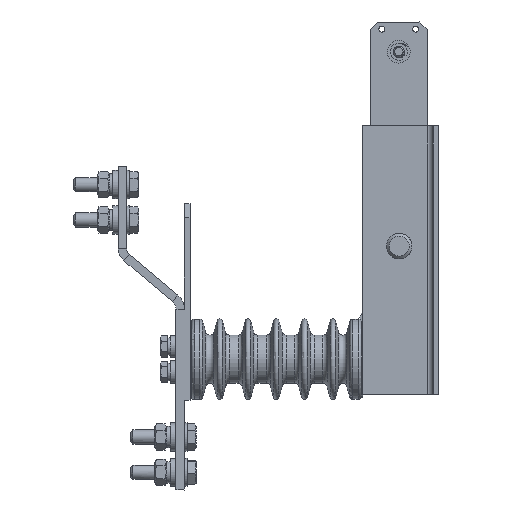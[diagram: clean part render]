
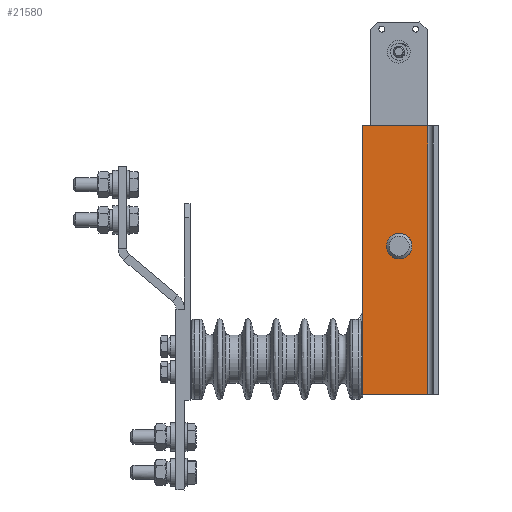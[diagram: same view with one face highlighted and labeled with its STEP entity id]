
A CAD part, left-side view. The second image highlights one B-rep face of the part: STEP entity #21580.
In plain terms, the highlighted planar face has unit normal (-1, 0, 0).
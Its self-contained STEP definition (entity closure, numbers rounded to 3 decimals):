
#2484 = CARTESIAN_POINT ( 'NONE',  ( -239.005, 8.004, 94.999 ) ) ;
#3773 = DIRECTION ( 'NONE',  ( -1., 0., 0. ) ) ;
#4215 = EDGE_LOOP ( 'NONE', ( #33894, #20145, #53182, #41077 ) ) ;
#4306 = CARTESIAN_POINT ( 'NONE',  ( -239.005, 37.004, 9.999 ) ) ;
#5144 = VERTEX_POINT ( 'NONE', #2484 ) ;
#5469 = FACE_OUTER_BOUND ( 'NONE', #4215, .T. ) ;
#6350 = DIRECTION ( 'NONE',  ( 0., 1., 0. ) ) ;
#7778 = CIRCLE ( 'NONE', #33644, 9. ) ;
#8830 = LINE ( 'NONE', #41606, #42026 ) ;
#8921 = CARTESIAN_POINT ( 'NONE',  ( -239.005, 50.004, -95.001 ) ) ;
#10210 = EDGE_CURVE ( 'NONE', #5144, #18747, #11718, .T. ) ;
#10350 = VECTOR ( 'NONE', #6350, 1000. ) ;
#10857 = ORIENTED_EDGE ( 'NONE', *, *, #16957, .F. ) ;
#11718 = LINE ( 'NONE', #28090, #10350 ) ;
#15747 = VECTOR ( 'NONE', #17681, 1000. ) ;
#16957 = EDGE_CURVE ( 'NONE', #18356, #18356, #7778, .T. ) ;
#17681 = DIRECTION ( 'NONE',  ( 0., -1., 0. ) ) ;
#18356 = VERTEX_POINT ( 'NONE', #4306 ) ;
#18664 = CARTESIAN_POINT ( 'NONE',  ( -239.005, 54.004, -95.001 ) ) ;
#18747 = VERTEX_POINT ( 'NONE', #27788 ) ;
#20145 = ORIENTED_EDGE ( 'NONE', *, *, #10210, .T. ) ;
#21333 = EDGE_LOOP ( 'NONE', ( #10857 ) ) ;
#21580 = ADVANCED_FACE ( 'NONE', ( #50083, #5469 ), #48197, .T. ) ;
#21851 = EDGE_CURVE ( 'NONE', #18747, #36321, #8830, .T. ) ;
#23147 = EDGE_CURVE ( 'NONE', #44507, #5144, #37905, .T. ) ;
#23576 = AXIS2_PLACEMENT_3D ( 'NONE', #35240, #52512, #26657 ) ;
#26657 = DIRECTION ( 'NONE',  ( 0., 1., 0. ) ) ;
#27788 = CARTESIAN_POINT ( 'NONE',  ( -239.005, 54.004, 94.999 ) ) ;
#28090 = CARTESIAN_POINT ( 'NONE',  ( -239.005, 8.004, 94.999 ) ) ;
#29742 = CARTESIAN_POINT ( 'NONE',  ( -239.005, 28.004, 9.999 ) ) ;
#33064 = DIRECTION ( 'NONE',  ( 0., 0., 1. ) ) ;
#33644 = AXIS2_PLACEMENT_3D ( 'NONE', #29742, #3773, #34122 ) ;
#33894 = ORIENTED_EDGE ( 'NONE', *, *, #23147, .T. ) ;
#34122 = DIRECTION ( 'NONE',  ( 0., 1., 0. ) ) ;
#35240 = CARTESIAN_POINT ( 'NONE',  ( -239.005, -43.996, -95.001 ) ) ;
#36321 = VERTEX_POINT ( 'NONE', #18664 ) ;
#37905 = LINE ( 'NONE', #54497, #53369 ) ;
#37982 = CARTESIAN_POINT ( 'NONE',  ( -239.005, 8.004, -95.001 ) ) ;
#41077 = ORIENTED_EDGE ( 'NONE', *, *, #47843, .T. ) ;
#41606 = CARTESIAN_POINT ( 'NONE',  ( -239.005, 54.004, 94.999 ) ) ;
#42026 = VECTOR ( 'NONE', #54549, 1000. ) ;
#44507 = VERTEX_POINT ( 'NONE', #37982 ) ;
#47843 = EDGE_CURVE ( 'NONE', #36321, #44507, #50153, .T. ) ;
#48197 = PLANE ( 'NONE',  #23576 ) ;
#50083 = FACE_BOUND ( 'NONE', #21333, .T. ) ;
#50153 = LINE ( 'NONE', #8921, #15747 ) ;
#52512 = DIRECTION ( 'NONE',  ( -1., 0., 0. ) ) ;
#53182 = ORIENTED_EDGE ( 'NONE', *, *, #21851, .T. ) ;
#53369 = VECTOR ( 'NONE', #33064, 1000. ) ;
#54497 = CARTESIAN_POINT ( 'NONE',  ( -239.005, 8.004, -95.001 ) ) ;
#54549 = DIRECTION ( 'NONE',  ( 0., 0., -1. ) ) ;
